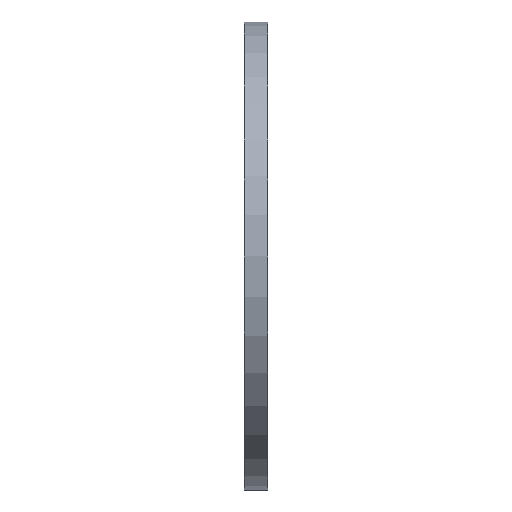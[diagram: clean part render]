
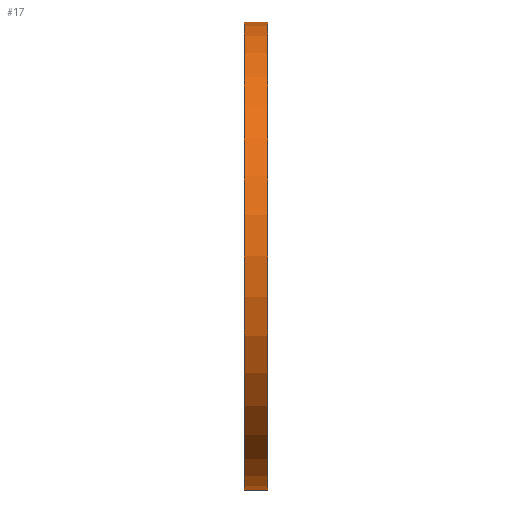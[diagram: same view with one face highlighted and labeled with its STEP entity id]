
A CAD part, front view. The second image highlights one B-rep face of the part: STEP entity #17.
In plain terms, the highlighted cylindrical face has radius 25 mm (diameter 50 mm), a full revolution.
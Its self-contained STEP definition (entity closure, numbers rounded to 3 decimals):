
#17 = ADVANCED_FACE('',(#18),#32,.T.);
#18 = FACE_BOUND('',#19,.F.);
#19 = EDGE_LOOP('',(#20,#50,#77,#78));
#20 = ORIENTED_EDGE('',*,*,#21,.T.);
#21 = EDGE_CURVE('',#22,#24,#26,.T.);
#22 = VERTEX_POINT('',#23);
#23 = CARTESIAN_POINT('',(55.4,25.,0.));
#24 = VERTEX_POINT('',#25);
#25 = CARTESIAN_POINT('',(57.9,25.,0.));
#26 = SEAM_CURVE('',#27,(#31,#43),.PCURVE_S1.);
#27 = LINE('',#28,#29);
#28 = CARTESIAN_POINT('',(55.4,25.,0.));
#29 = VECTOR('',#30,1.);
#30 = DIRECTION('',(1.,0.,0.));
#31 = PCURVE('',#32,#37);
#32 = CYLINDRICAL_SURFACE('',#33,25.);
#33 = AXIS2_PLACEMENT_3D('',#34,#35,#36);
#34 = CARTESIAN_POINT('',(55.4,0.,0.));
#35 = DIRECTION('',(-1.,-0.,-0.));
#36 = DIRECTION('',(0.,1.,0.));
#37 = DEFINITIONAL_REPRESENTATION('',(#38),#42);
#38 = LINE('',#39,#40);
#39 = CARTESIAN_POINT('',(-0.,0.));
#40 = VECTOR('',#41,1.);
#41 = DIRECTION('',(-0.,-1.));
#42 = ( GEOMETRIC_REPRESENTATION_CONTEXT(2) 
PARAMETRIC_REPRESENTATION_CONTEXT() REPRESENTATION_CONTEXT('2D SPACE',''
  ) );
#43 = PCURVE('',#32,#44);
#44 = DEFINITIONAL_REPRESENTATION('',(#45),#49);
#45 = LINE('',#46,#47);
#46 = CARTESIAN_POINT('',(-6.283,0.));
#47 = VECTOR('',#48,1.);
#48 = DIRECTION('',(-0.,-1.));
#49 = ( GEOMETRIC_REPRESENTATION_CONTEXT(2) 
PARAMETRIC_REPRESENTATION_CONTEXT() REPRESENTATION_CONTEXT('2D SPACE',''
  ) );
#50 = ORIENTED_EDGE('',*,*,#51,.T.);
#51 = EDGE_CURVE('',#24,#24,#52,.T.);
#52 = SURFACE_CURVE('',#53,(#58,#65),.PCURVE_S1.);
#53 = CIRCLE('',#54,25.);
#54 = AXIS2_PLACEMENT_3D('',#55,#56,#57);
#55 = CARTESIAN_POINT('',(57.9,0.,0.));
#56 = DIRECTION('',(1.,0.,0.));
#57 = DIRECTION('',(0.,1.,0.));
#58 = PCURVE('',#32,#59);
#59 = DEFINITIONAL_REPRESENTATION('',(#60),#64);
#60 = LINE('',#61,#62);
#61 = CARTESIAN_POINT('',(-0.,-2.5));
#62 = VECTOR('',#63,1.);
#63 = DIRECTION('',(-1.,0.));
#64 = ( GEOMETRIC_REPRESENTATION_CONTEXT(2) 
PARAMETRIC_REPRESENTATION_CONTEXT() REPRESENTATION_CONTEXT('2D SPACE',''
  ) );
#65 = PCURVE('',#66,#71);
#66 = PLANE('',#67);
#67 = AXIS2_PLACEMENT_3D('',#68,#69,#70);
#68 = CARTESIAN_POINT('',(57.9,0.,0.));
#69 = DIRECTION('',(1.,0.,0.));
#70 = DIRECTION('',(-0.,0.,1.));
#71 = DEFINITIONAL_REPRESENTATION('',(#72),#76);
#72 = CIRCLE('',#73,25.);
#73 = AXIS2_PLACEMENT_2D('',#74,#75);
#74 = CARTESIAN_POINT('',(0.,0.));
#75 = DIRECTION('',(0.,-1.));
#76 = ( GEOMETRIC_REPRESENTATION_CONTEXT(2) 
PARAMETRIC_REPRESENTATION_CONTEXT() REPRESENTATION_CONTEXT('2D SPACE',''
  ) );
#77 = ORIENTED_EDGE('',*,*,#21,.F.);
#78 = ORIENTED_EDGE('',*,*,#79,.F.);
#79 = EDGE_CURVE('',#22,#22,#80,.T.);
#80 = SURFACE_CURVE('',#81,(#86,#93),.PCURVE_S1.);
#81 = CIRCLE('',#82,25.);
#82 = AXIS2_PLACEMENT_3D('',#83,#84,#85);
#83 = CARTESIAN_POINT('',(55.4,0.,0.));
#84 = DIRECTION('',(1.,0.,0.));
#85 = DIRECTION('',(0.,1.,0.));
#86 = PCURVE('',#32,#87);
#87 = DEFINITIONAL_REPRESENTATION('',(#88),#92);
#88 = LINE('',#89,#90);
#89 = CARTESIAN_POINT('',(-0.,0.));
#90 = VECTOR('',#91,1.);
#91 = DIRECTION('',(-1.,0.));
#92 = ( GEOMETRIC_REPRESENTATION_CONTEXT(2) 
PARAMETRIC_REPRESENTATION_CONTEXT() REPRESENTATION_CONTEXT('2D SPACE',''
  ) );
#93 = PCURVE('',#94,#99);
#94 = PLANE('',#95);
#95 = AXIS2_PLACEMENT_3D('',#96,#97,#98);
#96 = CARTESIAN_POINT('',(55.4,0.,0.));
#97 = DIRECTION('',(1.,0.,0.));
#98 = DIRECTION('',(-0.,0.,1.));
#99 = DEFINITIONAL_REPRESENTATION('',(#100),#104);
#100 = CIRCLE('',#101,25.);
#101 = AXIS2_PLACEMENT_2D('',#102,#103);
#102 = CARTESIAN_POINT('',(0.,0.));
#103 = DIRECTION('',(0.,-1.));
#104 = ( GEOMETRIC_REPRESENTATION_CONTEXT(2) 
PARAMETRIC_REPRESENTATION_CONTEXT() REPRESENTATION_CONTEXT('2D SPACE',''
  ) );
